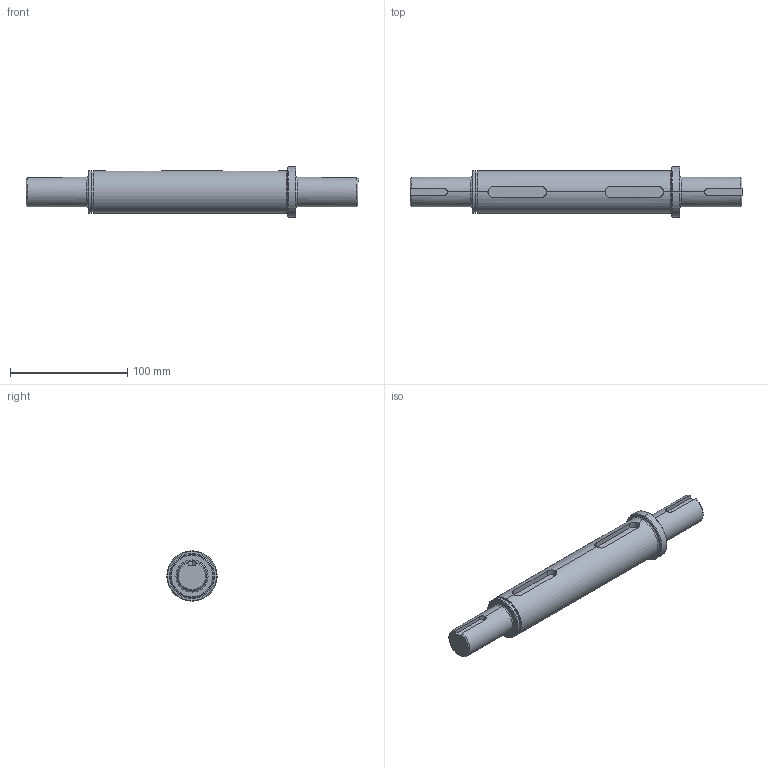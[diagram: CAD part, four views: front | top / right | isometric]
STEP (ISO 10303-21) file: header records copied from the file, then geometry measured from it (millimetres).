
FILE_DESCRIPTION (( 'STEP AP203' ), '1' );
FILE_NAME ('SSHdR206-OPS-DS.STEP', '2023-01-07T03:03:59', ( '' ), ( '' ), 'SwSTEP 2.0', 'SolidWorks 2012', '' );
FILE_SCHEMA (( 'CONFIG_CONTROL_DESIGN' ));
Length unit declared in the file: millimetre
Products named in the file (1): SSHdR206-OPS-DS
Bounding box: 283.68 x 43 x 43 mm (x, y, z)
Volume: 236022.7 mm3; surface area: 33270.4 mm2
Topology: 1 solids, 1 shells, 55 faces, 128 edges, 80 vertices
Faces by surface type: cylinder 21, plane 19, cone 9, torus 6
Entity records: 1827 total; most frequent: CARTESIAN_POINT 478, DIRECTION 278, ORIENTED_EDGE 256, EDGE_CURVE 128, AXIS2_PLACEMENT_3D 110, VERTEX_POINT 80, EDGE_LOOP 60, VECTOR 58
